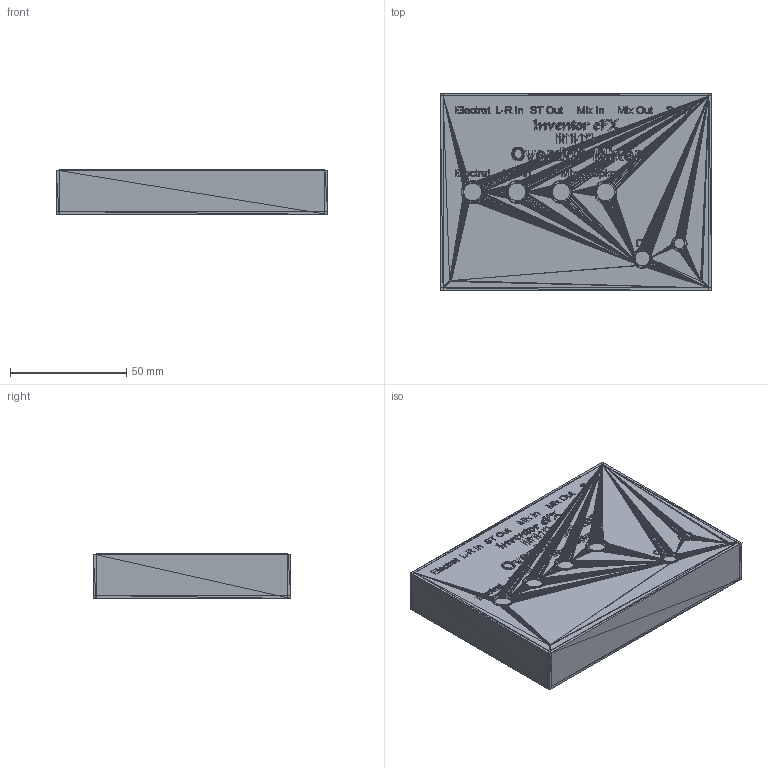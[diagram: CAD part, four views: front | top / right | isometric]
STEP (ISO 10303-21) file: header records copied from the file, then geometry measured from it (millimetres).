
FILE_DESCRIPTION(('HOOPS Exchange Step'),'2;1');
FILE_NAME('***.stp');
FILE_SCHEMA( ('AP242_MANAGED_MODEL_BASED_3D_ENGINEERING_MIM_LF {1 0 10303 442 1 1 4 }') );
Length unit declared in the file: inch
Products named in the file (122): OVRDUBX_2; OVRDUBX_3; OVRDUBX_4; OVRDUBX_5; OVRDUBX_6; OVRDUBX_7; OVRDUBX_8; OVRDUBX_9; OVRDUBX_10; OVRDUBX_11; OVRDUBX_12; OVRDUBX_13; OVRDUBX_14; OVRDUBX_15; OVRDUBX_16; OVRDUBX_17; OVRDUBX_18; OVRDUBX_19; OVRDUBX_20; OVRDUBX_21; OVRDUBX_22; OVRDUBX_23; OVRDUBX_24; OVRDUBX_25; OVRDUBX_26; OVRDUBX_27; OVRDUBX_28; OVRDUBX_29; OVRDUBX_30; OVRDUBX_31; OVRDUBX_32; OVRDUBX_33; OVRDUBX_34; OVRDUBX_35; OVRDUBX_36; OVRDUBX_37; OVRDUBX_38; OVRDUBX_39; OVRDUBX_40; OVRDUBX_41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
Assembly tree (121 placements, depth 2):
  OVRDUBX
    OVRDUBX_2
    OVRDUBX_3
    OVRDUBX_4
    OVRDUBX_5
    OVRDUBX_6
    OVRDUBX_7
    OVRDUBX_8
    OVRDUBX_9
    OVRDUBX_10
    OVRDUBX_11
    OVRDUBX_12
    OVRDUBX_13
    OVRDUBX_14
    OVRDUBX_15
    OVRDUBX_16
    OVRDUBX_17
    OVRDUBX_18
    OVRDUBX_19
    OVRDUBX_20
    OVRDUBX_21
    OVRDUBX_22
    OVRDUBX_23
    OVRDUBX_24
    OVRDUBX_25
    OVRDUBX_26
    OVRDUBX_27
    OVRDUBX_28
    OVRDUBX_29
    OVRDUBX_30
    OVRDUBX_31
    OVRDUBX_32
    OVRDUBX_33
    OVRDUBX_34
    OVRDUBX_35
    OVRDUBX_36
    OVRDUBX_37
    OVRDUBX_38
    OVRDUBX_39
    OVRDUBX_40
    OVRDUBX_41
    OVRDUBX_42
    OVRDUBX_43
    OVRDUBX_44
    OVRDUBX_45
    OVRDUBX_46
    OVRDUBX_47
    OVRDUBX_48
    OVRDUBX_49
    OVRDUBX_50
    OVRDUBX_51
    OVRDUBX_52
    OVRDUBX_53
    OVRDUBX_54
    OVRDUBX_55
    OVRDUBX_56
    OVRDUBX_57
    OVRDUBX_58
    OVRDUBX_59
    OVRDUBX_60
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Bounding box: 116.84 x 85.09 x 19.29 mm (x, y, z)
Volume: 22396.8 mm3; surface area: 55790.5 mm2
Topology: 5 solids, 121 shells, 4699 faces, 9448 edges, 4839 vertices
Faces by surface type: plane 4699
Entity records: 113733 total; most frequent: DIRECTION 19334, CARTESIAN_POINT 19230, ORIENTED_EDGE 14097, VECTOR 9448, LINE 9448, EDGE_CURVE 9448, AXIS2_PLACEMENT_3D 4943, VERTEX_POINT 4839
